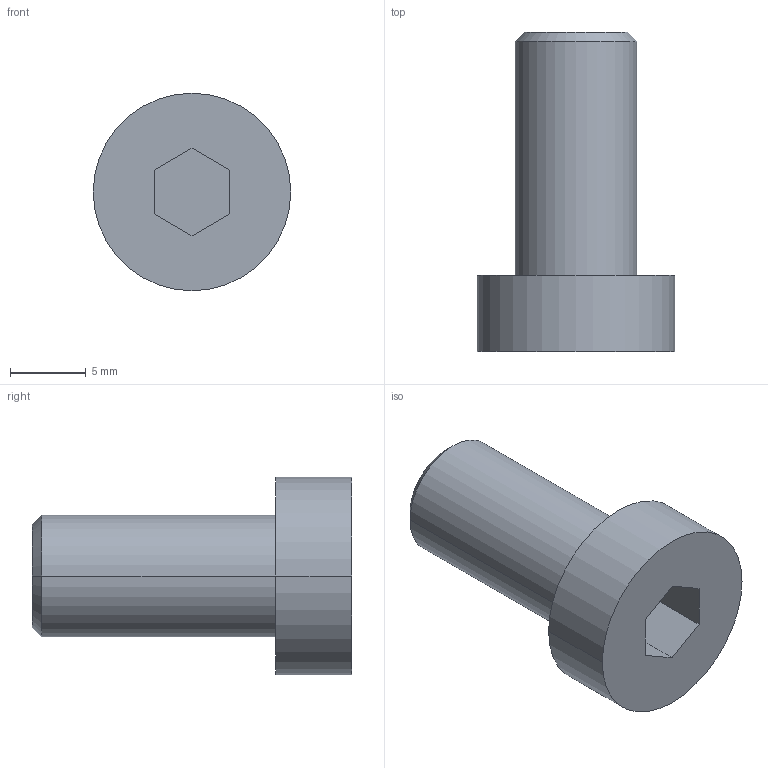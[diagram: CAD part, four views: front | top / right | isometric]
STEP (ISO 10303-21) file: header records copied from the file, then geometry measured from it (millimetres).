
FILE_DESCRIPTION((''),'2;1');
FILE_NAME('VTCEI0816','2002-12-27T',('Lipro doo'),('Lipro d.o.o.'),'PRO/ENGINEER BY PARAMETRIC TECHNOLOGY CORPORATION, 2001150','PRO/ENGINEER BY PARAMETRIC TECHNOLOGY CORPORATION, 2001150','');
FILE_SCHEMA(('CONFIG_CONTROL_DESIGN'));
Length unit declared in the file: millimetre
Products named in the file (1): VTCEI0816
Bounding box: 13 x 21 x 13 mm (x, y, z)
Volume: 1381.3 mm3; surface area: 1270.1 mm2
Topology: 1 solids, 2 shells, 18 faces, 40 edges, 26 vertices
Faces by surface type: plane 10, cylinder 6, cone 2
Entity records: 546 total; most frequent: DIRECTION 92, CARTESIAN_POINT 85, ORIENTED_EDGE 76, EDGE_CURVE 40, AXIS2_PLACEMENT_3D 33, VECTOR 26, LINE 26, VERTEX_POINT 26
